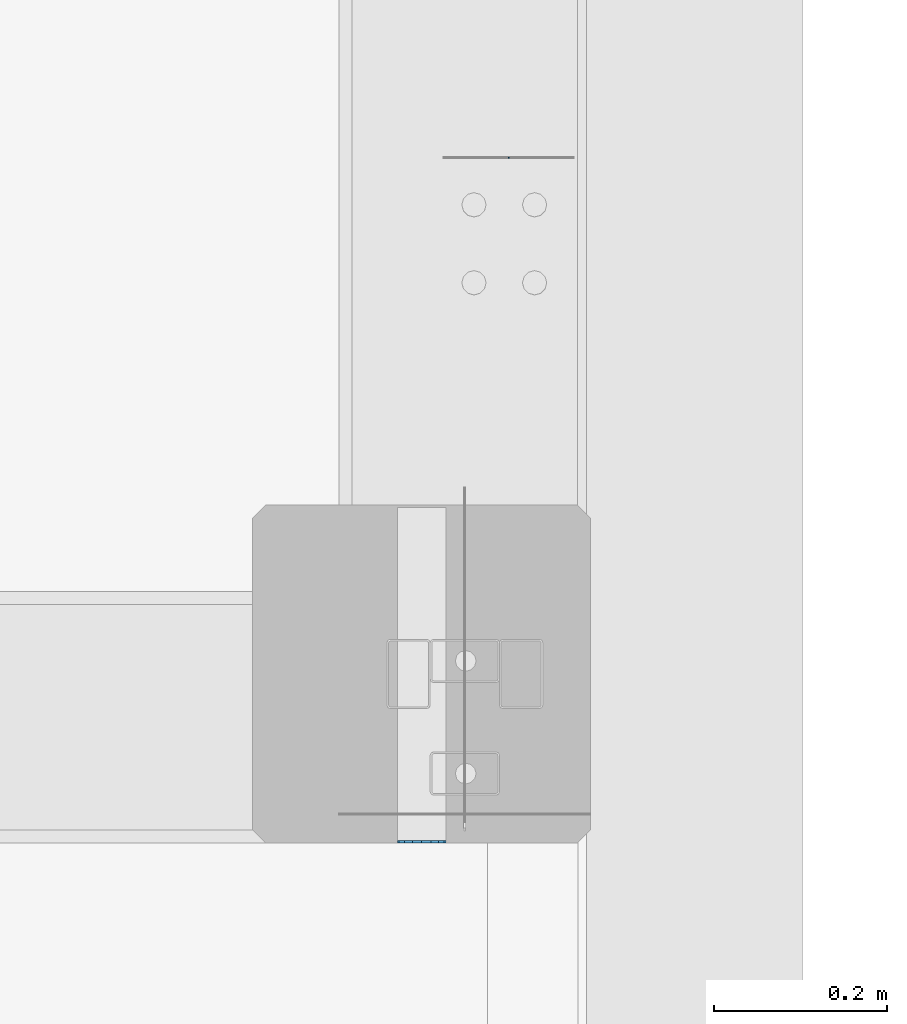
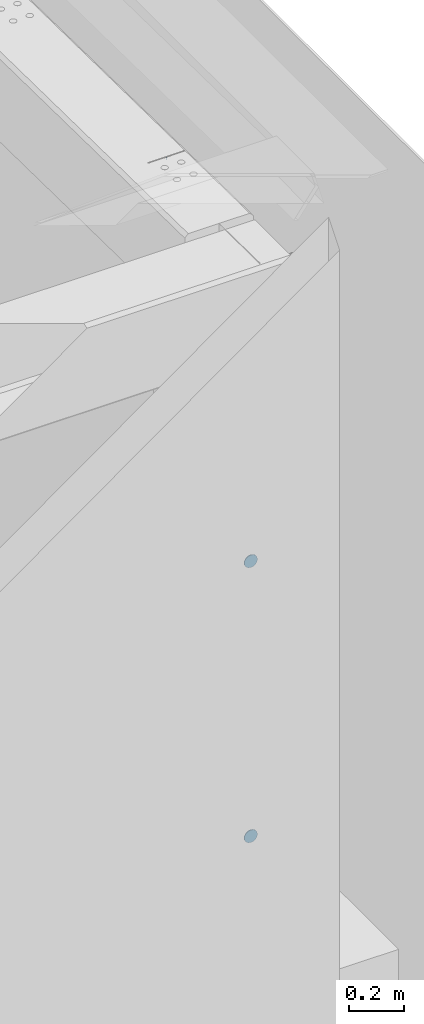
# One storey, part 81 of 186: 3 beams.
"""IFC4X3_ADD2 building model written with IfcOpenShell, lengths in millimetres."""

from ifc_helpers import new_model, si_unit, direction, frame, frame_2d, origin_with_axes, place, context, subcontext, project, spatial, indexed_curve, rectangle, outline, extrude, material, element, save


model = new_model("IFC4X3_ADD2")

# Units and contexts
model_context = context("Model", 3, precision=1e-05, world=origin_with_axes(), true_north=direction((0.0, 1.0)))
body_context = subcontext(model_context, "Body", "Model", "MODEL_VIEW")
ifc_project = project(units=[si_unit("LENGTHUNIT", "METRE", prefix="MILLI"), si_unit("AREAUNIT", "SQUARE_METRE"), si_unit("VOLUMEUNIT", "CUBIC_METRE"), si_unit("PLANEANGLEUNIT", "RADIAN"), si_unit("TIMEUNIT", "SECOND"), si_unit("MASSUNIT", "GRAM")], contexts=[model_context])

# Site, building, storey
site_placement = place(None, origin_with_axes())
site = spatial("IfcSite", under=ifc_project, at=site_placement, Name="Site", CompositionType="ELEMENT")
building_placement = place(site_placement, origin_with_axes())
building = spatial("IfcBuilding", under=site, at=building_placement, Name="IFC Building Story")
storey_placement = place(building_placement, frame((0.0, 0.0, 4370.0), z_axis=(0.0, 0.0, 1.0), x_axis=(1.0, 0.0, 0.0)))
storey = spatial("IfcBuildingStorey", under=building, at=storey_placement, Name="ETAGE 10 (1)", Elevation=4370.0)

# Beams
ifc_material_1 = material(Name="STEEL/Accessory_invisible")
beam_placement = place(storey_placement, frame((48412.192835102, -13669.0445557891, 3357.17422087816), z_axis=(-1.0, 0.0, 0.0), x_axis=(0.0, 0.01500926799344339, 0.9998873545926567)))
element("IfcBeam", 1, at=beam_placement, inside=storey, material=ifc_material_1, Name="ZW1", ObjectType="1*1 12", context=body_context, shape_type="SweptSolid", body=[
    extrude(rectangle(XDim=10.0, YDim=1.00000000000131, at=frame_2d((0.0, 5.95523630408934e-12), x_axis=(1.0, 0.0))), origin_with_axes(), (0.0, 0.0, 1.0), 1.0),
])
ifc_material_2 = material(Name="STEEL/Accessory 22919")
for number, where, z_axis, x_axis, name in (
    (2, (48311.18900000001, -14456.99999999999, 839.9999999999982), (0.0, -1.0, 0.0), (0.1950903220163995, 0.0, -0.9807852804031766), "TA4"),
    (3, (48311.18900000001, -14456.99999999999, 2069.999999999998), (0.0, -1.0, 0.0), (0.1950903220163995, 0.0, -0.9807852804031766), "TA4"),
):
    element("IfcBeam", number, at=place(storey_placement, frame(where, z_axis=z_axis, x_axis=x_axis)), inside=storey, material=ifc_material_2, Name=name, ObjectType="D56", context=body_context, shape_type="SweptSolid", body=[
        extrude(outline(indexed_curve([(23.28114914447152, 15.55596652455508), (27.46198785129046, 5.462529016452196), (27.46198785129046, -5.462529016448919), (23.28114914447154, -15.55596652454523), (15.55596652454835, -23.28114914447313), (5.462529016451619, -27.46198785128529), (-5.462529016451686, -27.46198785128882), (-15.55596652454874, -23.28114914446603), (-23.2811491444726, -15.55596652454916), (-27.46198785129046, -5.462529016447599), (-27.46198785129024, 5.462529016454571), (-23.28114914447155, 15.55596652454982), (-15.55596652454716, 23.28114914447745), (-5.462529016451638, 27.46198785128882), (5.462529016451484, 27.46198785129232), (15.55596652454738, 23.28114914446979), (23.28114914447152, 15.55596652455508)])), origin_with_axes(), (0.0, 0.0, 1.0), 3.000000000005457),
    ])

save(model, "model.ifc")
